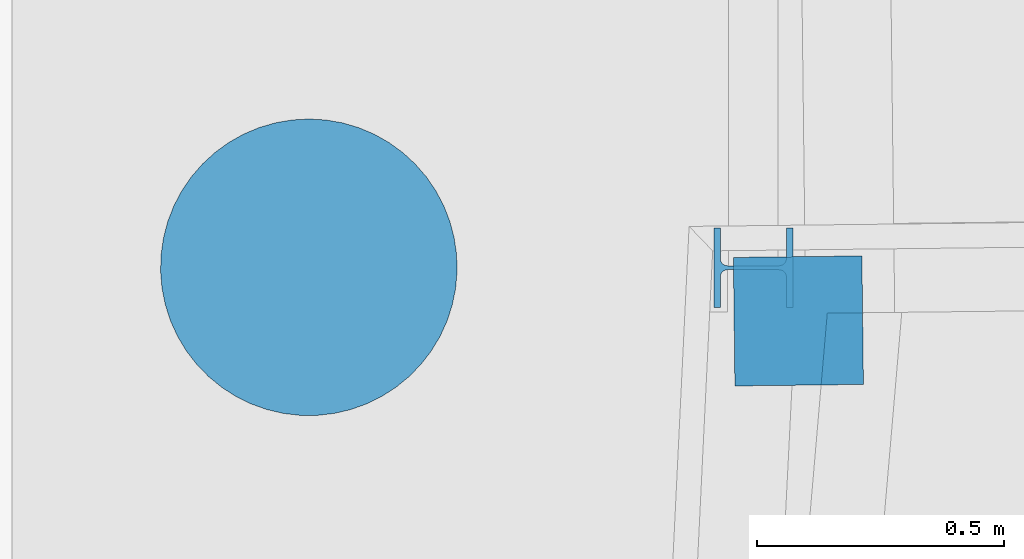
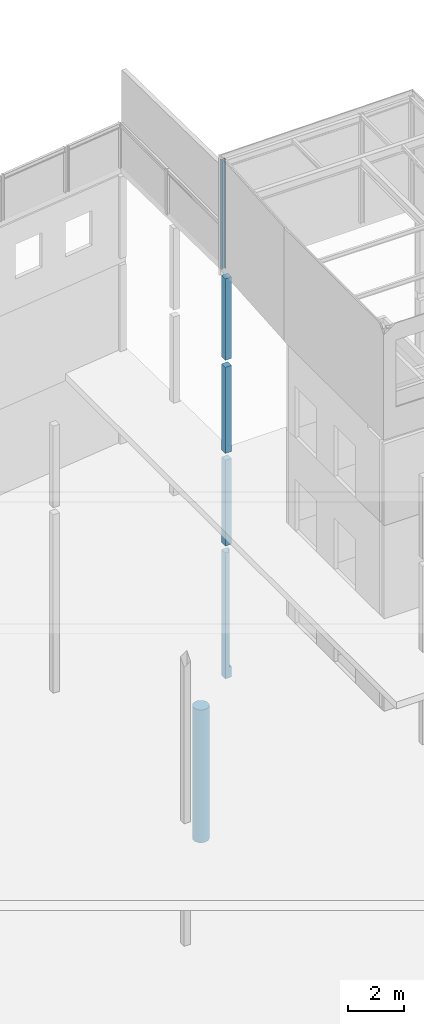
# One storey, part 30 of 82: 6 columns.
"""IFC2X3 building model written with IfcOpenShell, lengths in millimetres."""

from ifc_helpers import new_model, si_unit, frame, frame_2d, origin_with_axes, place, context, subcontext, project, spatial, polyline, rectangle, circle, i_section, outline, extrude, boolean, halfspace, material, type_object, element, save


model = new_model("IFC2X3")

# Units and contexts
model_context = context("Model", 3, precision=1e-05, world=origin_with_axes())
body_context = subcontext(model_context, "Body", "Model", "MODEL_VIEW")
ifc_project = project(units=[si_unit("LENGTHUNIT", "METRE", prefix="MILLI"), si_unit("AREAUNIT", "SQUARE_METRE"), si_unit("VOLUMEUNIT", "CUBIC_METRE"), si_unit("MASSUNIT", "GRAM", prefix="KILO"), si_unit("TIMEUNIT", "SECOND"), si_unit("PLANEANGLEUNIT", "RADIAN"), si_unit("SOLIDANGLEUNIT", "STERADIAN"), si_unit("THERMODYNAMICTEMPERATUREUNIT", "DEGREE_CELSIUS"), si_unit("LUMINOUSINTENSITYUNIT", "LUMEN")], contexts=[model_context])

# Site, building, storey
site_placement = place(None, origin_with_axes())
site = spatial("IfcSite", under=ifc_project, at=site_placement, Name="Undefined", CompositionType="ELEMENT")
building_placement = place(site_placement, origin_with_axes())
building = spatial("IfcBuilding", under=site, at=building_placement, Name="Undefined", CompositionType="ELEMENT")
storey_placement = place(building_placement, origin_with_axes())
storey = spatial("IfcBuildingStorey", under=building, at=storey_placement, Name="Undefined", CompositionType="ELEMENT", Elevation=0.0)

# Columns
ifc_material_1 = material(Name="CONCRETE/C25/30")
column_type_1 = type_object("IfcColumnType", Name="260*260", PredefinedType="NOTDEFINED")
column_1_placement = place(storey_placement, frame((29341.0873014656, 23436.5190965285, 13330.0), z_axis=(0.0, 0.0, 1.0), x_axis=(1.0, 0.0, 0.0)))
element("IfcColumn", 1, at=column_1_placement, inside=storey, type_object=column_type_1, material=ifc_material_1, Name="POTEAU", ObjectType="260*260", context=body_context, shape_type="SweptSolid", body=[
    extrude(rectangle(XDim=260.0, YDim=260.0, at=frame_2d((5.17284206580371e-08, 4.49290382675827e-10), x_axis=(1.0, 0.0))), frame((0.0, 0.000229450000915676, 3530.0), z_axis=(0.0, -6.50000002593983e-08, -0.999999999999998), x_axis=(-0.0117836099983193, 0.999930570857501, 0.0)), (0.0, 0.0, 1.0), 3530.0),
])
column_2_placement = place(storey_placement, frame((29341.0873014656, 23436.5190965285, 9305.0), z_axis=(0.0, 0.0, 1.0), x_axis=(1.0, 0.0, 0.0)))
element("IfcColumn", 2, at=column_2_placement, inside=storey, type_object=column_type_1, material=ifc_material_1, Name="POTEAU", ObjectType="260*260", context=body_context, shape_type="SweptSolid", body=[
    extrude(rectangle(XDim=260.0, YDim=260.0, at=frame_2d((5.17284206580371e-08, 4.49290382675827e-10), x_axis=(1.0, 0.0))), frame((0.0, 0.000227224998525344, 3725.0), z_axis=(0.0, -6.50000002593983e-08, -0.999999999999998), x_axis=(-0.0117836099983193, 0.999930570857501, 0.0)), (0.0, 0.0, 1.0), 3725.0),
])
column_3_placement = place(storey_placement, frame((29341.0873014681, 23436.5190965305, 5300.0), z_axis=(0.0, 0.0, 1.0), x_axis=(1.0, 0.0, 0.0)))
element("IfcColumn", 3, at=column_3_placement, inside=storey, type_object=column_type_1, material=ifc_material_1, Name="POTEAU", ObjectType="260*260", context=body_context, shape_type="SweptSolid", body=[
    extrude(rectangle(XDim=260.0, YDim=260.0, at=frame_2d((5.17284206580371e-08, 4.49290382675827e-10), x_axis=(1.0, 0.0))), frame((0.0, 0.000229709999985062, 3705.0), z_axis=(0.0, -6.50000002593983e-08, -0.999999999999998), x_axis=(-0.0117836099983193, 0.999930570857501, 0.0)), (0.0, 0.0, 1.0), 3705.0),
])
column_4_placement = place(storey_placement, frame((29341.0873014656, 23436.5190965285, -449.999511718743), z_axis=(0.0, 0.0, 1.0), x_axis=(1.0, 0.0, 0.0)))
solid = boolean("DIFFERENCE", boolean("DIFFERENCE", boolean("DIFFERENCE", boolean("DIFFERENCE", extrude(rectangle(XDim=4905.98181740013, YDim=150.0, at=frame_2d((0.0, 2451.83222706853), x_axis=(0.0, -1.0))), frame((133.663091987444, 15.4194746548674, 449.999511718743), z_axis=(0.0, 0.0, 1.0), x_axis=(-0.996339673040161, 0.0854824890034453, 0.0)), (0.0, 0.0, 1.0), 5000.0), extrude(rectangle(XDim=700.0, YDim=360.0, at=frame_2d((5.17284206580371e-08, 4.49290382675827e-10), x_axis=(1.0, 0.0))), frame((-156.321924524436, -2370.14017517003, 4249.99980926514), z_axis=(0.996339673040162, -0.0854824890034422, 0.0), x_axis=(0.0854824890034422, 0.996339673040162, 0.0)), (0.0, 0.0, 1.0), 170.0)), extrude(outline(polyline([(5.17284206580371e-08, 4.49290382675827e-10), (2100.0, 5.82076609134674e-11), (2100.0, 1000.00000000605), (0.0, 1000.00000000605), (5.17284206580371e-08, 4.49290382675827e-10)])), frame((189.172637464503, -331.945674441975, 2549.99951171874), z_axis=(-0.996339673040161, 0.0854824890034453, 0.0), x_axis=(0.0, -6.50000002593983e-08, -0.999999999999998)), (0.0, 0.0, 1.0), 170.0)), halfspace(frame((-285.613397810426, -4871.45040476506, 1949.99951171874), z_axis=(0.0, 1.0, 0.0), x_axis=(1.0, 0.0, 0.0)), True)), halfspace(frame((133.762138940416, 16.5739151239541, 1949.99951171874), z_axis=(0.0114519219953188, -0.99993442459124, 0.0), x_axis=(-0.999934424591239, -0.0114519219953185, 0.0)), True))
element("IfcColumn", 4, at=column_4_placement, inside=storey, type_object=column_type_1, material=ifc_material_1, Name="POTEAU", ObjectType="260*260", context=body_context, shape_type="CSG", body=[
    boolean("DIFFERENCE", extrude(rectangle(XDim=260.0, YDim=260.0, at=frame_2d((5.17284206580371e-08, 4.49290382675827e-10), x_axis=(1.0, 0.0))), frame((0.0, 0.000228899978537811, 5449.99951171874), z_axis=(0.0, -6.50000002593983e-08, -0.999999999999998), x_axis=(-0.0117836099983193, 0.999930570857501, 0.0)), (0.0, 0.0, 1.0), 5450.0), solid),
])
ifc_material_2 = material(Name="STEEL/S275JR")
column_type_2 = type_object("IfcColumnType", Name="HEB160", PredefinedType="NOTDEFINED")
column_5_placement = place(storey_placement, frame((29249.9999999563, 23544.1000000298, 17160.0), z_axis=(0.0, 0.0, 1.0), x_axis=(1.0, 0.0, 0.0)))
element("IfcColumn", 5, at=column_5_placement, inside=storey, type_object=column_type_2, material=ifc_material_2, Name="POTEAU", ObjectType="HEB160", context=body_context, shape_type="SweptSolid", body=[
    extrude(i_section(OverallWidth=160.0, OverallDepth=160.0, WebThickness=8.0, FlangeThickness=13.0, FilletRadius=15.0, at=frame_2d((5.17284206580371e-08, 4.49290382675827e-10), x_axis=(1.0, 0.0))), frame((0.0, 0.0, 4735.0), z_axis=(0.0, -6.50000002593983e-08, -0.999999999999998), x_axis=(-2.77555756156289e-17, -1.0, 0.0)), (0.0, 0.0, 1.0), 4735.0),
])
column_type_3 = type_object("IfcColumnType", Name="D600", PredefinedType="NOTDEFINED")
column_6_placement = place(storey_placement, frame((28350.7883214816, 23544.9995727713, -7175.0), z_axis=(0.0, 0.0, 1.0), x_axis=(1.0, 0.0, 0.0)))
element("IfcColumn", 6, at=column_6_placement, inside=storey, type_object=column_type_3, material=ifc_material_1, Name="PIEU", ObjectType="D600", context=body_context, shape_type="SweptSolid", body=[
    extrude(circle(Radius=300.0, at=frame_2d((5.17284206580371e-08, 4.49290382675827e-10), x_axis=(1.0, 0.0))), frame((0.0, 0.0, 5750.0), z_axis=(0.0, -6.50000002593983e-08, -0.999999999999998), x_axis=(0.0, 1.0, 0.0)), (0.0, 0.0, 1.0), 5750.0),
])

save(model, "model.ifc")
